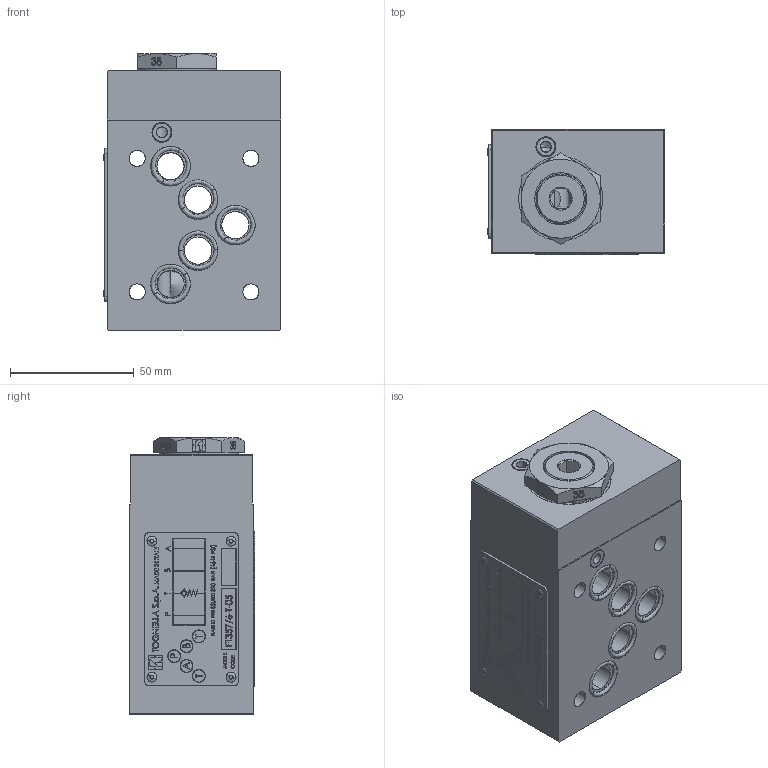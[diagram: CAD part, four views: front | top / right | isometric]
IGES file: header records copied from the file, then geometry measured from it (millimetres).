
Start section: SolidWorks IGES file using analytic representation for surfaces
Global section: file name: C:\Users\pc-te25\Desktop\357-6-T-05.IGS; native system: SolidWorks 2018; preprocessor: SolidWorks 2018; author: pc-te25; date: 191204.085302; units: millimetre
Bounding box: 71.66 x 50.61 x 111.8 mm (x, y, z)
Surface area: 50118.2 mm2 (no closed solid volume)
Topology: 0 solids, 0 shells, 745 faces, 14113 edges, 14079 vertices
Faces by surface type: bspline 572, revolution 173
